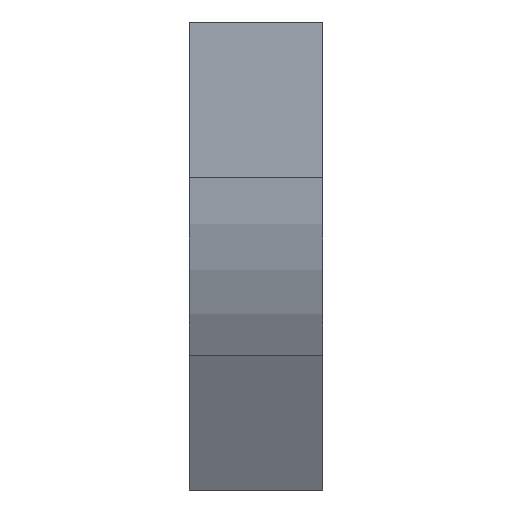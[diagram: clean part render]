
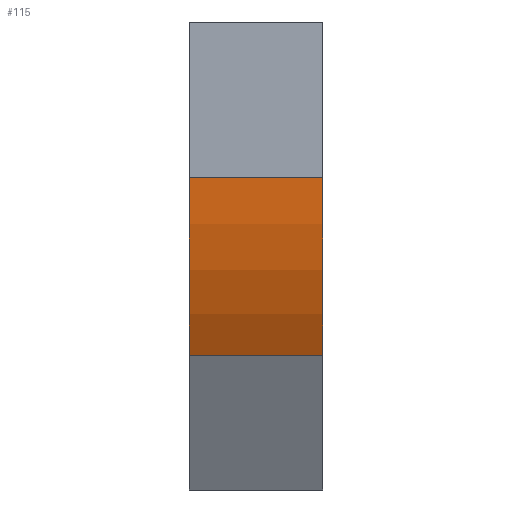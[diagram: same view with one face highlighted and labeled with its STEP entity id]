
A CAD part, left-side view. The second image highlights one B-rep face of the part: STEP entity #115.
In plain terms, the highlighted cylindrical face has radius 300 mm (diameter 600 mm), a partial arc.
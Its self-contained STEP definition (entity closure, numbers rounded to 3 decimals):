
#12 = ORIENTED_EDGE ( 'NONE', *, *, #517, .T. ) ;
#26 = VERTEX_POINT ( 'NONE', #685 ) ;
#74 = CARTESIAN_POINT ( 'NONE',  ( 300., 0., -130.385 ) ) ;
#94 = ORIENTED_EDGE ( 'NONE', *, *, #743, .T. ) ;
#115 = ADVANCED_FACE ( 'NONE', ( #1324 ), #1207, .T. ) ;
#133 = EDGE_LOOP ( 'NONE', ( #913, #147, #94, #12 ) ) ;
#137 = DIRECTION ( 'NONE',  ( -1., 0., 0. ) ) ;
#147 = ORIENTED_EDGE ( 'NONE', *, *, #1651, .F. ) ;
#207 = LINE ( 'NONE', #1449, #950 ) ;
#280 = DIRECTION ( 'NONE',  ( -1., 0., 0. ) ) ;
#312 = DIRECTION ( 'NONE',  ( 0., -1., 0. ) ) ;
#361 = CARTESIAN_POINT ( 'NONE',  ( 0., 0., -130.385 ) ) ;
#435 = DIRECTION ( 'NONE',  ( 0., 0., -1. ) ) ;
#472 = VECTOR ( 'NONE', #1062, 1000. ) ;
#476 = VERTEX_POINT ( 'NONE', #843 ) ;
#495 = AXIS2_PLACEMENT_3D ( 'NONE', #677, #1308, #280 ) ;
#500 = DIRECTION ( 'NONE',  ( 0., -1., 0. ) ) ;
#517 = EDGE_CURVE ( 'NONE', #1617, #1466, #207, .T. ) ;
#518 = CIRCLE ( 'NONE', #1091, 300. ) ;
#600 = AXIS2_PLACEMENT_3D ( 'NONE', #74, #972, #435 ) ;
#667 = CARTESIAN_POINT ( 'NONE',  ( 40.192, 0., -280.385 ) ) ;
#677 = CARTESIAN_POINT ( 'NONE',  ( 300., 112.5, -130.385 ) ) ;
#685 = CARTESIAN_POINT ( 'NONE',  ( 0., 0., -130.385 ) ) ;
#734 = CIRCLE ( 'NONE', #495, 300. ) ;
#743 = EDGE_CURVE ( 'NONE', #476, #1617, #734, .T. ) ;
#843 = CARTESIAN_POINT ( 'NONE',  ( 0., 112.5, -130.385 ) ) ;
#870 = CARTESIAN_POINT ( 'NONE',  ( 40.192, 112.5, -280.385 ) ) ;
#883 = CARTESIAN_POINT ( 'NONE',  ( 300., 0., -130.385 ) ) ;
#913 = ORIENTED_EDGE ( 'NONE', *, *, #1279, .F. ) ;
#950 = VECTOR ( 'NONE', #312, 1000. ) ;
#972 = DIRECTION ( 'NONE',  ( 0., -1., 0. ) ) ;
#1062 = DIRECTION ( 'NONE',  ( 0., -1., 0. ) ) ;
#1091 = AXIS2_PLACEMENT_3D ( 'NONE', #883, #500, #137 ) ;
#1145 = LINE ( 'NONE', #361, #472 ) ;
#1207 = CYLINDRICAL_SURFACE ( 'NONE', #600, 300. ) ;
#1279 = EDGE_CURVE ( 'NONE', #26, #1466, #518, .T. ) ;
#1308 = DIRECTION ( 'NONE',  ( 0., -1., 0. ) ) ;
#1324 = FACE_OUTER_BOUND ( 'NONE', #133, .T. ) ;
#1449 = CARTESIAN_POINT ( 'NONE',  ( 40.192, 0., -280.385 ) ) ;
#1466 = VERTEX_POINT ( 'NONE', #667 ) ;
#1617 = VERTEX_POINT ( 'NONE', #870 ) ;
#1651 = EDGE_CURVE ( 'NONE', #476, #26, #1145, .T. ) ;
